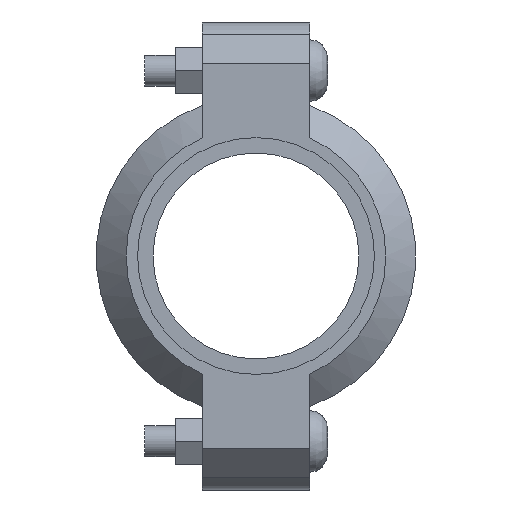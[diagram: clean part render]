
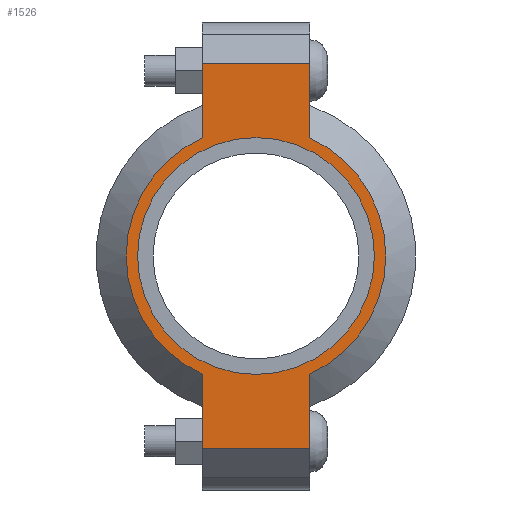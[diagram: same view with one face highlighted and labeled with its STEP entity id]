
A CAD part, left-side view. The second image highlights one B-rep face of the part: STEP entity #1526.
In plain terms, the highlighted planar face has unit normal (-1, 0, 0) as drawn and (0, 0, 1) by its records, which use the part's own axes.
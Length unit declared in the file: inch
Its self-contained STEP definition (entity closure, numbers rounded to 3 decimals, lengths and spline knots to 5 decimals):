
#150=LINE('',#2654,#243);
#158=LINE('',#2690,#251);
#165=LINE('',#2711,#258);
#174=LINE('',#2743,#267);
#175=LINE('',#2747,#268);
#176=LINE('',#2749,#269);
#243=VECTOR('',#2166,0.3937);
#251=VECTOR('',#2182,0.3937);
#258=VECTOR('',#2201,0.3937);
#267=VECTOR('',#2226,0.3937);
#268=VECTOR('',#2231,0.3937);
#269=VECTOR('',#2232,0.3937);
#325=FACE_BOUND('',#503,.T.);
#397=FACE_OUTER_BOUND('',#502,.T.);
#502=EDGE_LOOP('',(#1267,#1268,#1269,#1270,#1271,#1272,#1273,#1274));
#503=EDGE_LOOP('',(#1275));
#575=CIRCLE('',#1736,1.4375);
#601=CIRCLE('',#1795,1.575);
#602=CIRCLE('',#1796,1.575);
#667=VERTEX_POINT('',#2470);
#710=VERTEX_POINT('',#2651);
#711=VERTEX_POINT('',#2653);
#722=VERTEX_POINT('',#2685);
#723=VERTEX_POINT('',#2689);
#730=VERTEX_POINT('',#2708);
#731=VERTEX_POINT('',#2710);
#741=VERTEX_POINT('',#2746);
#742=VERTEX_POINT('',#2748);
#823=EDGE_CURVE('',#667,#667,#575,.T.);
#884=EDGE_CURVE('',#711,#710,#150,.T.);
#898=EDGE_CURVE('',#723,#722,#158,.T.);
#908=EDGE_CURVE('',#731,#730,#165,.T.);
#923=EDGE_CURVE('',#723,#710,#174,.T.);
#924=EDGE_CURVE('',#722,#731,#601,.T.);
#925=EDGE_CURVE('',#741,#730,#175,.T.);
#926=EDGE_CURVE('',#741,#742,#176,.T.);
#927=EDGE_CURVE('',#742,#711,#602,.T.);
#1267=ORIENTED_EDGE('',*,*,#923,.F.);
#1268=ORIENTED_EDGE('',*,*,#898,.T.);
#1269=ORIENTED_EDGE('',*,*,#924,.T.);
#1270=ORIENTED_EDGE('',*,*,#908,.T.);
#1271=ORIENTED_EDGE('',*,*,#925,.F.);
#1272=ORIENTED_EDGE('',*,*,#926,.T.);
#1273=ORIENTED_EDGE('',*,*,#927,.T.);
#1274=ORIENTED_EDGE('',*,*,#884,.T.);
#1275=ORIENTED_EDGE('',*,*,#823,.T.);
#1368=PLANE('',#1794);
#1526=ADVANCED_FACE('',(#397,#325),#1368,.T.);
#1736=AXIS2_PLACEMENT_3D('',#2472,#2042,#2043);
#1794=AXIS2_PLACEMENT_3D('',#2744,#2227,#2228);
#1795=AXIS2_PLACEMENT_3D('',#2745,#2229,#2230);
#1796=AXIS2_PLACEMENT_3D('',#2750,#2233,#2234);
#2042=DIRECTION('center_axis',(0.,0.,-1.));
#2043=DIRECTION('ref_axis',(-1.,0.,0.));
#2166=DIRECTION('',(-1.,0.,0.));
#2182=DIRECTION('',(1.,0.,0.));
#2201=DIRECTION('',(1.,0.,0.));
#2226=DIRECTION('',(0.,1.,0.));
#2227=DIRECTION('center_axis',(0.,0.,1.));
#2228=DIRECTION('ref_axis',(1.,0.,0.));
#2229=DIRECTION('center_axis',(0.,0.,1.));
#2230=DIRECTION('ref_axis',(-1.,0.,0.));
#2231=DIRECTION('',(0.,-1.,0.));
#2232=DIRECTION('',(-1.,0.,0.));
#2233=DIRECTION('center_axis',(0.,0.,1.));
#2234=DIRECTION('ref_axis',(-1.,0.,0.));
#2470=CARTESIAN_POINT('',(1.4375,0.,0.94));
#2472=CARTESIAN_POINT('Origin',(0.,0.,0.94));
#2651=CARTESIAN_POINT('',(-2.34,0.65,0.94));
#2653=CARTESIAN_POINT('',(-1.43462,0.65,0.94));
#2654=CARTESIAN_POINT('',(-2.84,0.65,0.94));
#2685=CARTESIAN_POINT('',(-1.43462,-0.65,0.94));
#2689=CARTESIAN_POINT('',(-2.34,-0.65,0.94));
#2690=CARTESIAN_POINT('',(2.84,-0.65,0.94));
#2708=CARTESIAN_POINT('',(2.34,-0.65,0.94));
#2710=CARTESIAN_POINT('',(1.43462,-0.65,0.94));
#2711=CARTESIAN_POINT('',(2.84,-0.65,0.94));
#2743=CARTESIAN_POINT('',(-2.34,0.325,0.94));
#2744=CARTESIAN_POINT('Origin',(0.,0.,
0.94));
#2745=CARTESIAN_POINT('Origin',(0.,0.,0.94));
#2746=CARTESIAN_POINT('',(2.34,0.65,0.94));
#2747=CARTESIAN_POINT('',(2.34,-0.325,0.94));
#2748=CARTESIAN_POINT('',(1.43462,0.65,0.94));
#2749=CARTESIAN_POINT('',(-2.84,0.65,0.94));
#2750=CARTESIAN_POINT('Origin',(0.,0.,0.94));
